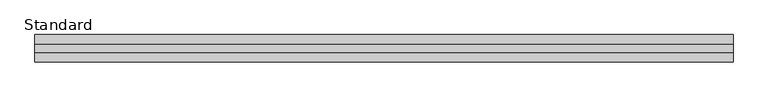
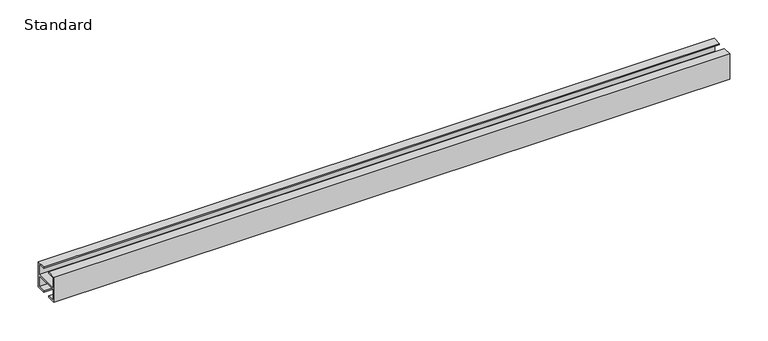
"""IFC4 building model written with IfcOpenShell, lengths in millimetres: furniture geometry, X_Partition-Channel-Duracube-Head : Standard."""

from ifc_helpers import new_model, si_unit, frame, origin, place, context, project, spatial, polyline, outline, extrude, source, transform, mapped, element, save


def standard_c8a961e5(model_context):
    return source(origin(), model_context, "Body", "SweptSolid", [
        extrude(outline(polyline([(0.0, 0.0), (-13.5, 0.0), (-13.5, 2.0), (-2.0, 2.0), (-2.0, 19.0), (-38.0, 19.0), (-38.0, 2.0), (-26.5, 2.0), (-26.5, 0.0), (-40.0, 0.0), (-40.0, 40.0), (-26.5, 40.0), (-26.5, 38.0), (-38.0, 38.0), (-38.0, 21.0), (-2.0, 21.0), (-2.0, 38.0), (-13.5, 38.0), (-13.5, 40.0), (0.0, 40.0), (0.0, 0.0)])), frame((-462.0496736, 0.0, 0.0), z_axis=(1.0, 0.0, 0.0), x_axis=(0.0, 1.0, 0.0)), (0.0, 0.0, 1.0), 1013.5),
    ])


if __name__ == "__main__":
    model = new_model("IFC4")
    model_context = context("Model", 3, world=origin())
    ifc_project = project(units=[si_unit("LENGTHUNIT", "METRE", prefix="MILLI")], contexts=[model_context])
    site = spatial("IfcSite", under=ifc_project)
    building = spatial("IfcBuilding", under=site)
    placement = place(None, origin())
    standard_shape = standard_c8a961e5(model_context)
    element("IfcFurniture", 1, ObjectType="X_Partition-Channel-Duracube-Head : Standard", at=placement, inside=building, context=model_context, shape_type="MappedRepresentation", body=[
        mapped(standard_shape, transform((0.0, 0.0, 0.0), x_axis=(1.0, 0.0, 0.0), y_axis=(0.0, 1.0, 0.0), z_axis=(0.0, 0.0, 1.0))),
    ])
    save(model, "model.ifc")
